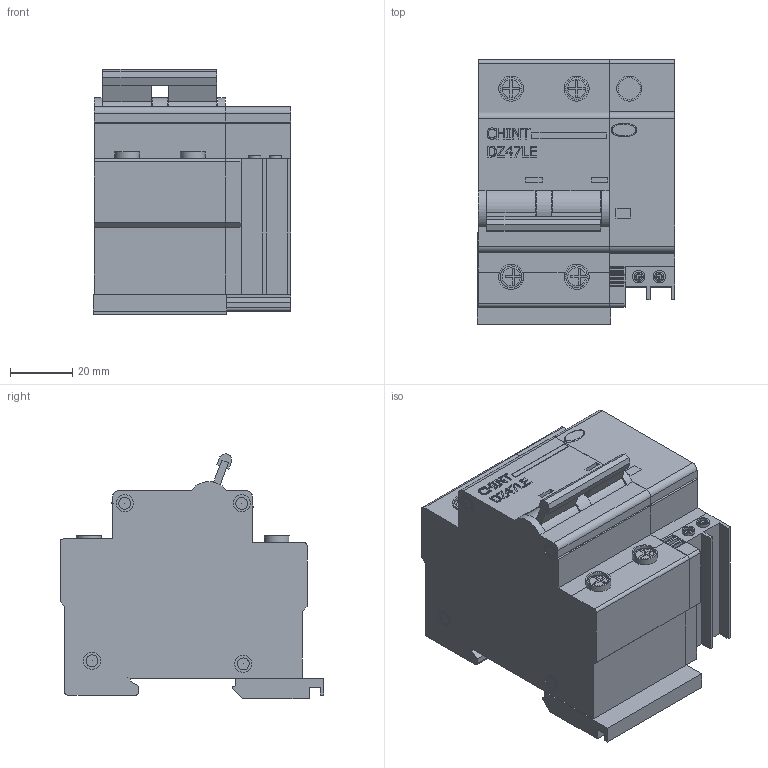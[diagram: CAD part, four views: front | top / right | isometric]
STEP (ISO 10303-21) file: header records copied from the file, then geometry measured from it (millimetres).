
FILE_DESCRIPTION(/* description */ (''),/* implementation_level */ '2;1');
FILE_NAME(/* name */ 'D:\CHINT\DZ47LE\Диф. автомат DZ47LE-32 2P 6A 30mA тип AC х-ка С 6kA (CHINT).stp',/* time_stamp */ '2017-09-24T18:43:27+04:00',/* author */ ('RSagdiev'),/* organization */ (''),/* preprocessor_version */ 'ST-DEVELOPER v16.5',/* originating_system */ 'Autodesk Inventor 2017',/* authorisation */ '');
FILE_SCHEMA (('AUTOMOTIVE_DESIGN { 1 0 10303 214 3 1 1 }'));
Length unit declared in the file: millimetre
Products named in the file (1): Диф. автомат DZ47LE-32 
2P 6A 30mA тип AC х-ка \X2\0421
\X0\ 6kA (CHINT)
Bounding box: 63.4 x 84.5 x 78.49 mm (x, y, z)
Volume: 273029.7 mm3; surface area: 44839 mm2
Topology: 14 solids, 14 shells, 520 faces, 1303 edges, 857 vertices
Faces by surface type: plane 387, cylinder 100, bspline 27, torus 6
Full cylindrical faces by diameter (mm): 0.001 x10, 3 x2, 3.794 x12, 4 x2, 5.491 x12, 7 x5, 8 x5
Entity records: 15600 total; most frequent: CARTESIAN_POINT 3189, ORIENTED_EDGE 2490, DIRECTION 2451, EDGE_CURVE 1245, LINE 917, VECTOR 917, VERTEX_POINT 851, AXIS2_PLACEMENT_3D 767
